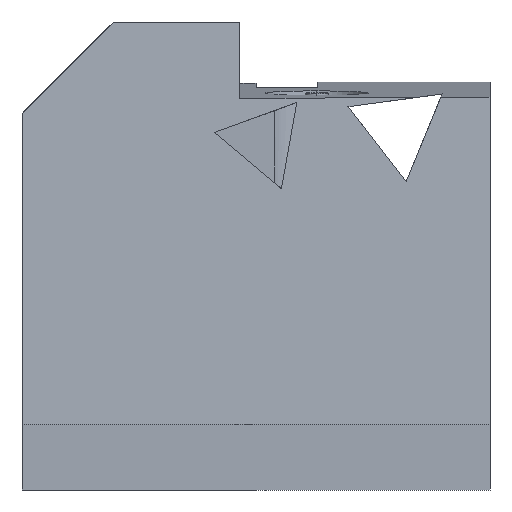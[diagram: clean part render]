
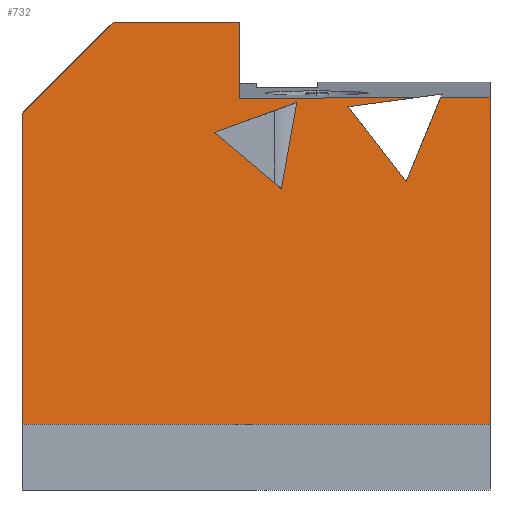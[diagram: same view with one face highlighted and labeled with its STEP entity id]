
A CAD part, left-side view. The second image highlights one B-rep face of the part: STEP entity #732.
In plain terms, the highlighted planar face has unit normal (-0.995, -0.101, 0).
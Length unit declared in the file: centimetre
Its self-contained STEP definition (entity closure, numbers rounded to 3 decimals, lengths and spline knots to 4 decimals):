
#17 = DIRECTION ( 'NONE',  ( -0.101, 0.995, 0. ) ) ;
#23 = EDGE_CURVE ( 'NONE', #541, #1536, #1396, .T. ) ;
#26 = FACE_OUTER_BOUND ( 'NONE', #717, .T. ) ;
#54 = VERTEX_POINT ( 'NONE', #75 ) ;
#75 = CARTESIAN_POINT ( 'NONE',  ( 204.8443, 534.498, 836.8088 ) ) ;
#97 = CARTESIAN_POINT ( 'NONE',  ( 247.8003, 112.1819, 844.8405 ) ) ;
#109 = DIRECTION ( 'NONE',  ( 0.039, -0.379, 0.924 ) ) ;
#120 = CARTESIAN_POINT ( 'NONE',  ( 157.4957, 1000., 140.3052 ) ) ;
#127 = EDGE_CURVE ( 'NONE', #455, #1069, #1187, .T. ) ;
#129 = EDGE_CURVE ( 'NONE', #719, #309, #1322, .T. ) ;
#145 = DIRECTION ( 'NONE',  ( -0.101, 0.995, 0. ) ) ;
#169 = ORIENTED_EDGE ( 'NONE', *, *, #874, .T. ) ;
#181 = VECTOR ( 'NONE', #1569, 100. ) ;
#190 = CARTESIAN_POINT ( 'NONE',  ( 157.1872, 1003.0328, 834.7414 ) ) ;
#199 = VERTEX_POINT ( 'NONE', #1371 ) ;
#203 = DIRECTION ( 'NONE',  ( 0., 0., 1. ) ) ;
#206 = LINE ( 'NONE', #97, #1237 ) ;
#237 = CARTESIAN_POINT ( 'NONE',  ( 157.1872, 1003.0328, 834.7414 ) ) ;
#291 = CARTESIAN_POINT ( 'NONE',  ( 157.4957, 1000., 140.3052 ) ) ;
#309 = VERTEX_POINT ( 'NONE', #581 ) ;
#313 = VERTEX_POINT ( 'NONE', #1425 ) ;
#382 = PLANE ( 'NONE',  #639 ) ;
#392 = CARTESIAN_POINT ( 'NONE',  ( 157.4957, 1000., 140.3052 ) ) ;
#394 = ORIENTED_EDGE ( 'NONE', *, *, #503, .F. ) ;
#396 = LINE ( 'NONE', #408, #915 ) ;
#408 = CARTESIAN_POINT ( 'NONE',  ( 176.3706, 814.4333, 991.0302 ) ) ;
#409 = EDGE_CURVE ( 'NONE', #1069, #432, #547, .T. ) ;
#414 = ORIENTED_EDGE ( 'NONE', *, *, #23, .T. ) ;
#432 = VERTEX_POINT ( 'NONE', #836 ) ;
#455 = VERTEX_POINT ( 'NONE', #489 ) ;
#465 = CARTESIAN_POINT ( 'NONE',  ( 157.4957, 1000., 140.3052 ) ) ;
#474 = CARTESIAN_POINT ( 'NONE',  ( 203.2821, 549.8568, 59.2039 ) ) ;
#478 = CARTESIAN_POINT ( 'NONE',  ( 142.174, 1150.6335, 560.9803 ) ) ;
#489 = CARTESIAN_POINT ( 'NONE',  ( 228.3469, 303.4358, 819.0015 ) ) ;
#503 = EDGE_CURVE ( 'NONE', #1317, #313, #1504, .T. ) ;
#523 = CARTESIAN_POINT ( 'NONE',  ( 213.8789, 445.6758, 643.4308 ) ) ;
#541 = VERTEX_POINT ( 'NONE', #1544 ) ;
#547 = LINE ( 'NONE', #1024, #788 ) ;
#566 = VECTOR ( 'NONE', #832, 100. ) ;
#578 = ORIENTED_EDGE ( 'NONE', *, *, #689, .T. ) ;
#581 = CARTESIAN_POINT ( 'NONE',  ( 217.2252, 412.7767, 827.9224 ) ) ;
#584 = EDGE_CURVE ( 'NONE', #541, #1317, #1198, .T. ) ;
#609 = LINE ( 'NONE', #1086, #1113 ) ;
#610 = VECTOR ( 'NONE', #1193, 100. ) ;
#626 = DIRECTION ( 'NONE',  ( 0.995, 0.101, 0. ) ) ;
#639 = AXIS2_PLACEMENT_3D ( 'NONE', #392, #626, #145 ) ;
#676 = DIRECTION ( 'NONE',  ( -0.018, 0.176, -0.984 ) ) ;
#679 = LINE ( 'NONE', #1154, #566 ) ;
#689 = EDGE_CURVE ( 'NONE', #995, #719, #679, .T. ) ;
#695 = VECTOR ( 'NONE', #203, 100. ) ;
#708 = CARTESIAN_POINT ( 'NONE',  ( 204.8443, 534.498, 140.3052 ) ) ;
#717 = EDGE_LOOP ( 'NONE', ( #414, #1439, #1007, #1091, #1023, #1261, #860, #169, #1029, #394, #1157 ) ) ;
#719 = VERTEX_POINT ( 'NONE', #1358 ) ;
#732 = ADVANCED_FACE ( 'NONE', ( #847, #26 ), #382, .F. ) ;
#769 = DIRECTION ( 'NONE',  ( -0.072, 0.705, -0.705 ) ) ;
#788 = VECTOR ( 'NONE', #109, 100. ) ;
#800 = CARTESIAN_POINT ( 'NONE',  ( 259.2109, 0., 839.1673 ) ) ;
#832 = DIRECTION ( 'NONE',  ( -0.078, 0.762, 0.642 ) ) ;
#836 = CARTESIAN_POINT ( 'NONE',  ( 248.5232, 105.0747, 838.7037 ) ) ;
#847 = FACE_BOUND ( 'NONE', #878, .T. ) ;
#860 = ORIENTED_EDGE ( 'NONE', *, *, #1094, .T. ) ;
#863 = LINE ( 'NONE', #237, #610 ) ;
#874 = EDGE_CURVE ( 'NONE', #1338, #933, #609, .T. ) ;
#878 = EDGE_LOOP ( 'NONE', ( #578, #1552, #1155 ) ) ;
#915 = VECTOR ( 'NONE', #769, 100. ) ;
#917 = DIRECTION ( 'NONE',  ( 0., 0., 1. ) ) ;
#933 = VERTEX_POINT ( 'NONE', #1510 ) ;
#995 = VERTEX_POINT ( 'NONE', #523 ) ;
#1000 = EDGE_CURVE ( 'NONE', #199, #54, #1005, .T. ) ;
#1004 = CARTESIAN_POINT ( 'NONE',  ( 204.8443, 534.498, 1000. ) ) ;
#1005 = LINE ( 'NONE', #190, #1197 ) ;
#1007 = ORIENTED_EDGE ( 'NONE', *, *, #409, .F. ) ;
#1023 = ORIENTED_EDGE ( 'NONE', *, *, #1509, .F. ) ;
#1024 = CARTESIAN_POINT ( 'NONE',  ( 240.8475, 180.5374, 654.7591 ) ) ;
#1029 = ORIENTED_EDGE ( 'NONE', *, *, #1385, .T. ) ;
#1031 = EDGE_CURVE ( 'NONE', #309, #995, #1280, .T. ) ;
#1067 = CARTESIAN_POINT ( 'NONE',  ( 228.0288, 306.563, 823.0485 ) ) ;
#1069 = VERTEX_POINT ( 'NONE', #1524 ) ;
#1075 = DIRECTION ( 'NONE',  ( 0.095, -0.936, 0.339 ) ) ;
#1086 = CARTESIAN_POINT ( 'NONE',  ( 157.4957, 1000., 1000. ) ) ;
#1091 = ORIENTED_EDGE ( 'NONE', *, *, #127, .F. ) ;
#1094 = EDGE_CURVE ( 'NONE', #54, #1338, #1440, .T. ) ;
#1112 = DIRECTION ( 'NONE',  ( 0., 0., 1. ) ) ;
#1113 = VECTOR ( 'NONE', #17, 100. ) ;
#1137 = VECTOR ( 'NONE', #1423, 100. ) ;
#1154 = CARTESIAN_POINT ( 'NONE',  ( 205.8229, 524.8769, 710.1501 ) ) ;
#1155 = ORIENTED_EDGE ( 'NONE', *, *, #1031, .T. ) ;
#1157 = ORIENTED_EDGE ( 'NONE', *, *, #584, .F. ) ;
#1187 = LINE ( 'NONE', #1067, #181 ) ;
#1193 = DIRECTION ( 'NONE',  ( -0.101, 0.995, -0.004 ) ) ;
#1195 = VECTOR ( 'NONE', #1075, 100. ) ;
#1197 = VECTOR ( 'NONE', #1251, 100. ) ;
#1198 = LINE ( 'NONE', #465, #1137 ) ;
#1237 = VECTOR ( 'NONE', #1306, 100. ) ;
#1251 = DIRECTION ( 'NONE',  ( -0.101, 0.995, -0.004 ) ) ;
#1261 = ORIENTED_EDGE ( 'NONE', *, *, #1000, .T. ) ;
#1280 = LINE ( 'NONE', #474, #1400 ) ;
#1301 = EDGE_CURVE ( 'NONE', #1536, #432, #863, .T. ) ;
#1306 = DIRECTION ( 'NONE',  ( -0.1, 0.986, -0.133 ) ) ;
#1317 = VERTEX_POINT ( 'NONE', #120 ) ;
#1322 = LINE ( 'NONE', #478, #1195 ) ;
#1338 = VERTEX_POINT ( 'NONE', #1004 ) ;
#1358 = CARTESIAN_POINT ( 'NONE',  ( 199.3006, 589.0007, 764.1681 ) ) ;
#1368 = VECTOR ( 'NONE', #917, 100. ) ;
#1371 = CARTESIAN_POINT ( 'NONE',  ( 242.9997, 159.3788, 838.4641 ) ) ;
#1385 = EDGE_CURVE ( 'NONE', #933, #313, #396, .T. ) ;
#1396 = LINE ( 'NONE', #1513, #695 ) ;
#1400 = VECTOR ( 'NONE', #676, 100. ) ;
#1401 = VECTOR ( 'NONE', #1112, 100. ) ;
#1423 = DIRECTION ( 'NONE',  ( -0.101, 0.995, 0. ) ) ;
#1425 = CARTESIAN_POINT ( 'NONE',  ( 157.4957, 1000., 805.4635 ) ) ;
#1439 = ORIENTED_EDGE ( 'NONE', *, *, #1301, .T. ) ;
#1440 = LINE ( 'NONE', #708, #1368 ) ;
#1504 = LINE ( 'NONE', #291, #1401 ) ;
#1509 = EDGE_CURVE ( 'NONE', #199, #455, #206, .T. ) ;
#1510 = CARTESIAN_POINT ( 'NONE',  ( 177.283, 805.4635, 1000. ) ) ;
#1513 = CARTESIAN_POINT ( 'NONE',  ( 259.2109, 0., 140.3052 ) ) ;
#1524 = CARTESIAN_POINT ( 'NONE',  ( 240.9892, 179.1446, 658.1542 ) ) ;
#1536 = VERTEX_POINT ( 'NONE', #800 ) ;
#1544 = CARTESIAN_POINT ( 'NONE',  ( 259.2109, 0., 140.3052 ) ) ;
#1552 = ORIENTED_EDGE ( 'NONE', *, *, #129, .T. ) ;
#1569 = DIRECTION ( 'NONE',  ( 0.062, -0.61, -0.79 ) ) ;
